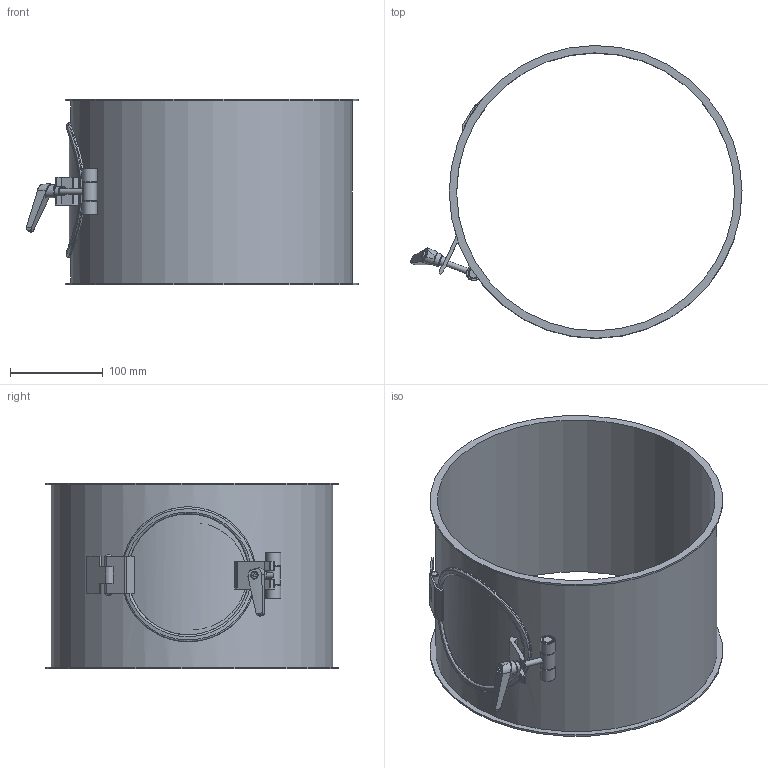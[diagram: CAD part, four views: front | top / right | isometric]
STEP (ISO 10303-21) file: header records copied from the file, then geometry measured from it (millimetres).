
FILE_DESCRIPTION((''),'2;1');
FILE_NAME('U:\Wolfgang\Marcel-3D\fertig\Kapitel 4\3021043.stp','2011-04-21T08:25:29',('TK1'),(''),'Autodesk Inventor 2010','Autodesk Inventor 2010','');
FILE_SCHEMA(('AUTOMOTIVE_DESIGN { 1 0 10303 214 1 1 1 1 }'));
Length unit declared in the file: millimetre
Products named in the file (13): 3021043 (Detailgenauigkeit1); 3021043-1; GelenkDeckel30; GelenkDeckel1c; Deckel302; Deckel30b; GelenkDeckel22a; dichtung30; Halterung Deckel30; VerschlussB5; Verschluss1; Verschluss2; Verstellbarer Klemmhebel GN 101-14-M6-SW
Assembly tree (13 placements, depth 3):
  3021043 (Detailgenauigkeit1)
    3021043-1
    GelenkDeckel30
    GelenkDeckel1c
    Deckel302
      Deckel30b
      GelenkDeckel22a
      dichtung30
      Halterung Deckel30
    VerschlussB5
      Verschluss1  x2
      Verschluss2
    Verstellbarer Klemmhebel GN 101-14-M6-SW
Bounding box: 357.19 x 314.99 x 200 mm (x, y, z)
Volume: 440240.1 mm3; surface area: 444487.2 mm2
Topology: 11 solids, 11 shells, 143 faces, 328 edges, 215 vertices
Faces by surface type: plane 67, cylinder 47, cone 18, torus 5, bspline 4, sphere 2
Full cylindrical faces by diameter (mm): 4.8 x1, 6 x5, 8 x1, 10 x3, 11 x2, 14 x1, 15 x1, 16 x2, 115 x1, 130 x1, 135 x1, 145 x1, 299 x1, 303 x1, 315 x2
Entity records: 5674 total; most frequent: CARTESIAN_POINT 2406, DIRECTION 632, ORIENTED_EDGE 532, EDGE_CURVE 266, AXIS2_PLACEMENT_3D 247, VERTEX_POINT 195, EDGE_LOOP 193, VECTOR 138
